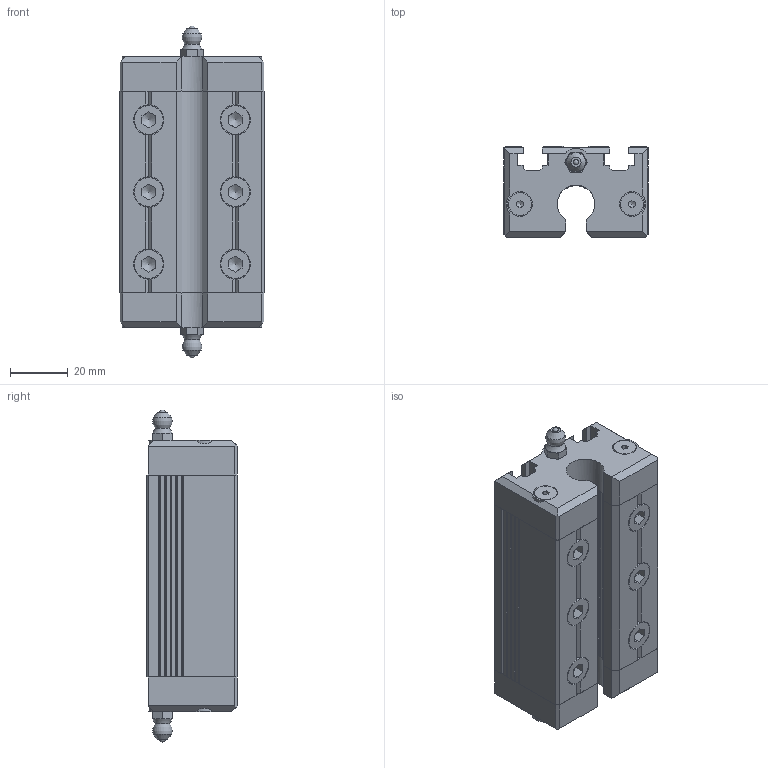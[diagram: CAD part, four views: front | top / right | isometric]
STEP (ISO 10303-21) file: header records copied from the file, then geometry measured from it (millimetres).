
FILE_DESCRIPTION (( 'STEP AP203' ), '1' );
FILE_NAME ('Wellenschlitten WS 6 - ArtNr 223106 X070.STEP', '2014-12-15T10:40:11', ( '' ), ( '' ), 'SwSTEP 2.0', 'SolidWorks 2014', '' );
FILE_SCHEMA (( 'CONFIG_CONTROL_DESIGN' ));
Length unit declared in the file: millimetre
Products named in the file (1): Wellenschlitten WS 6 - ArtNr 223106 X070
Bounding box: 50 x 31.5 x 115.09 mm (x, y, z)
Volume: 109417.2 mm3; surface area: 33790 mm2
Topology: 1 solids, 1 shells, 488 faces, 1286 edges, 818 vertices
Faces by surface type: plane 385, cylinder 85, cone 12, torus 4, sphere 2
Full cylindrical faces by diameter (mm): 8 x4, 8.5 x4, 10 x6, 10.5 x6
Entity records: 14917 total; most frequent: CARTESIAN_POINT 3035, ORIENTED_EDGE 2476, DIRECTION 2376, EDGE_CURVE 1238, VECTOR 898, LINE 898, VERTEX_POINT 806, AXIS2_PLACEMENT_3D 739
